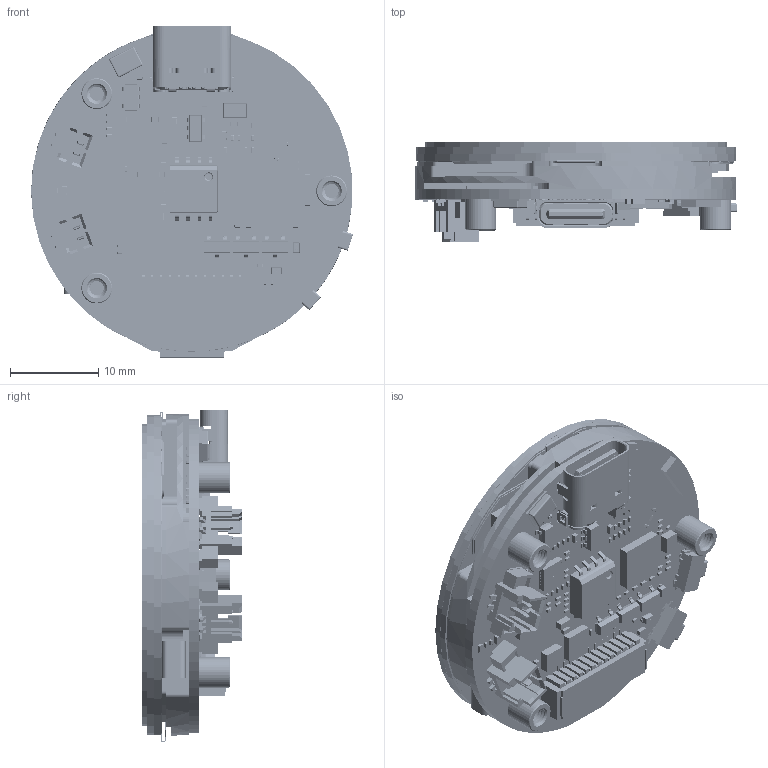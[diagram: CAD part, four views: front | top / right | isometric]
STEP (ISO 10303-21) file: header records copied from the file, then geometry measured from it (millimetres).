
FILE_DESCRIPTION((''),'2;1');
FILE_NAME('ESP32-C6-TOUCH-AMOLED-1_32_ASM','2025-10-21T12:00:04',('xiaojisheng'),(''),'CREO PARAMETRIC BY PTC INC, 2021063','CREO PARAMETRIC BY PTC INC, 2021063','');
FILE_SCHEMA(('CONFIG_CONTROL_DESIGN','SHAPE_APPEARANCE_LAYERS_GROUPS'));
Length unit declared in the file: millimetre
Products named in the file (216): Z132A2441-V0-TP; Z132A2441-V0-LCD; Z132A2441-V0_ASM; BOARD; USER_LIBRARY-RES_0603-0201_1; USER_LIBRARY-RES_0603-0201_2; USER_LIBRARY-RES_0603-0201_3; USER_LIBRARY-RES_0603-0201_4; USER_LIBRARY-RES_0603-0201_ASM; R19_ASM; CIRCUITWORKS-SOT-23-5; U1_ASM; USER_LIBRARY-0201_0603M__CAP_1; USER_LIBRARY-0201_0603M__CAP_2; USER_LIBRARY-0201_0603M__CAP_3; USER_LIBRARY-0201_0603M__CAP_ASM; C28_ASM; C24_ASM; C22_ASM; C15_ASM; C14_ASM; R2_ASM; EXTRUDED-33647; 595444240_ASM; LED1_ASM; EXTRUDED-41405; 595444624_ASM; X1_ASM; USER_LIBRARY-WQFN-20; U8_ASM; EXTRUDED-61344; 1584909872_ASM; U7_ASM; PIN_SOIC_SOIC-208_1; SOIC_150_SOIC_5_4X5_4_1; USER_LIBRARY-SOIC-8-208_ASM; U6_ASM; U4_ASM; EXTRUDED-66112; 1607285520_ASM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
Assembly tree (328 placements, depth 9):
  ESP32-C6-TOUCH-AMOLED-1_32_ASM
    Z132A2441-V0_ASM
      Z132A2441-V0-TP
      Z132A2441-V0-LCD
    ESP32-C6-TOUCH-AMOLED-1_32-PCBA_ASM
      ESP32-C6-TOUCH-AMOLED-1_32-PCB_ASM
        PCB_ASM
          BOARD
          R19_ASM
            USER_LIBRARY-RES_0603-0201_ASM
              USER_LIBRARY-RES_0603-0201_1
              USER_LIBRARY-RES_0603-0201_2
              USER_LIBRARY-RES_0603-0201_3
              USER_LIBRARY-RES_0603-0201_4
          U1_ASM
            CIRCUITWORKS-SOT-23-5
          C28_ASM
            USER_LIBRARY-0201_0603M__CAP_ASM
              USER_LIBRARY-0201_0603M__CAP_1
              USER_LIBRARY-0201_0603M__CAP_2
              USER_LIBRARY-0201_0603M__CAP_3
          C24_ASM
            USER_LIBRARY-0201_0603M__CAP_ASM
              USER_LIBRARY-0201_0603M__CAP_1
              USER_LIBRARY-0201_0603M__CAP_2
              USER_LIBRARY-0201_0603M__CAP_3
          C22_ASM
            USER_LIBRARY-0201_0603M__CAP_ASM
              USER_LIBRARY-0201_0603M__CAP_1
              USER_LIBRARY-0201_0603M__CAP_2
              USER_LIBRARY-0201_0603M__CAP_3
          C15_ASM
            USER_LIBRARY-0201_0603M__CAP_ASM
              USER_LIBRARY-0201_0603M__CAP_1
              USER_LIBRARY-0201_0603M__CAP_2
              USER_LIBRARY-0201_0603M__CAP_3
          C14_ASM
            USER_LIBRARY-0201_0603M__CAP_ASM
              USER_LIBRARY-0201_0603M__CAP_1
              USER_LIBRARY-0201_0603M__CAP_2
              USER_LIBRARY-0201_0603M__CAP_3
          R2_ASM
            USER_LIBRARY-RES_0603-0201_ASM
              USER_LIBRARY-RES_0603-0201_1
              USER_LIBRARY-RES_0603-0201_2
              USER_LIBRARY-RES_0603-0201_3
              USER_LIBRARY-RES_0603-0201_4
          LED1_ASM
            595444240_ASM
              EXTRUDED-33647
          X1_ASM
            595444624_ASM
              EXTRUDED-41405
          U8_ASM
            USER_LIBRARY-WQFN-20
          U7_ASM
            1584909872_ASM
              EXTRUDED-61344
          U6_ASM
            USER_LIBRARY-SOIC-8-208_ASM
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Bounding box: 36.53 x 11.3 x 37.7 mm (x, y, z)
Volume: 6623.2 mm3; surface area: 13770.8 mm2
Topology: 403 solids, 420 shells, 19537 faces, 51077 edges, 32958 vertices
Faces by surface type: plane 12036, extrusion 4320, cylinder 2519, sphere 562, cone 56, bspline 42, torus 2
Entity records: 266495 total; most frequent: CARTESIAN_POINT 53446, ORIENTED_EDGE 33928, DIRECTION 31798, EDGE_CURVE 16969, PRESENTATION_STYLE_ASSIGNMENT 14082, VECTOR 14064, LINE 13670, STYLED_ITEM 12483
